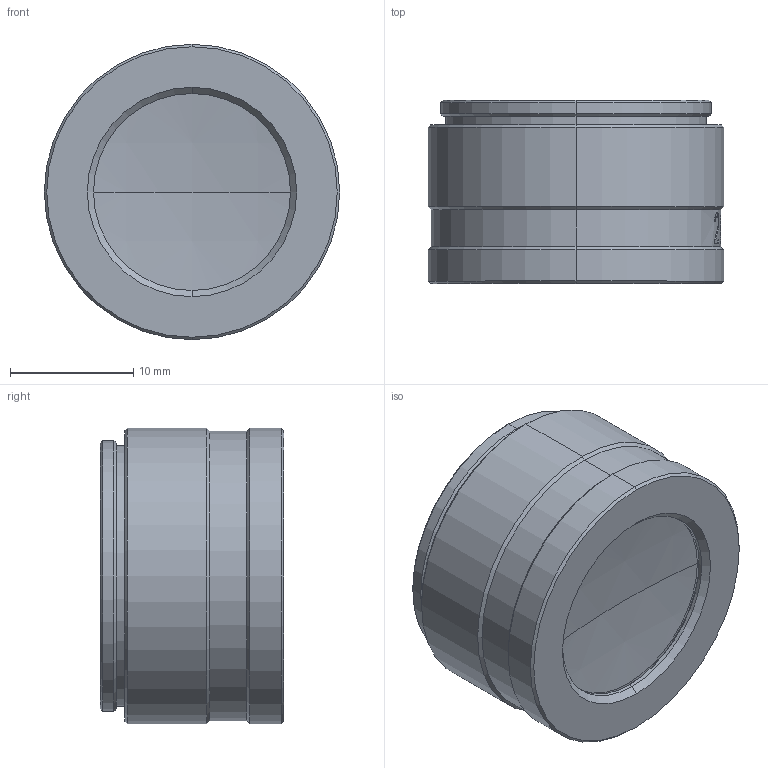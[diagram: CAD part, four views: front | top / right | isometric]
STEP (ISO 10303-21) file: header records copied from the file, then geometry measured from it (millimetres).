
FILE_DESCRIPTION (( 'STEP AP203' ), '1' );
FILE_NAME ('RK-Z65F20.STEP', '2022-10-27T06:46:16', ( 'Windows 蚚誧' ), ( 'Organization' ), 'SwSTEP 2.0', 'SolidWorks 2018', '' );
FILE_SCHEMA (( 'CONFIG_CONTROL_DESIGN' ));
Length unit declared in the file: millimetre
Products named in the file (1): RK-Z65F20
Bounding box: 24 x 14.89 x 24 mm (x, y, z)
Volume: 3679 mm3; surface area: 3719.1 mm2
Topology: 3 solids, 3 shells, 138 faces, 323 edges, 203 vertices
Faces by surface type: cone 37, cylinder 33, bspline 32, plane 30, sphere 6
Entity records: 7253 total; most frequent: CARTESIAN_POINT 4213, ORIENTED_EDGE 646, DIRECTION 555, EDGE_CURVE 323, AXIS2_PLACEMENT_3D 234, VERTEX_POINT 203, EDGE_LOOP 154, ADVANCED_FACE 138
